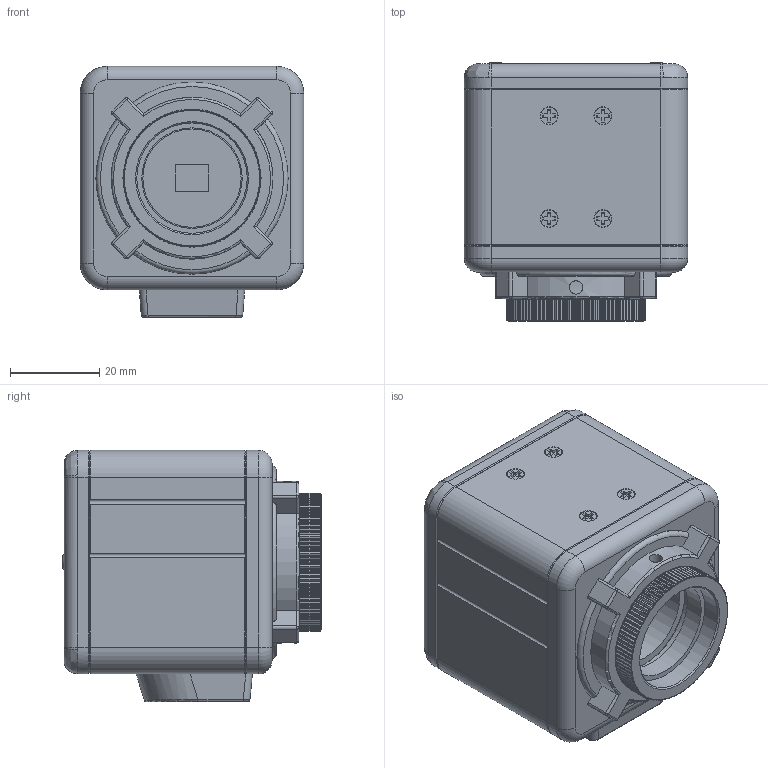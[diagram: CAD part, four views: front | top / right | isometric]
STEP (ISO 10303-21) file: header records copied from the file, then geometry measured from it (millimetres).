
FILE_DESCRIPTION(('STEP AP214'),'1');
FILE_NAME('WA2UVC.stp','2023-06-20T04:46:05',(' '),(' '),'Spatial InterOp 3D',' ',' ');
FILE_SCHEMA(('AUTOMOTIVE_DESIGN { 1 0 10303 214 1 1 1 1 }'));
Length unit declared in the file: metre
Products named in the file (2): WA2UVC; Component1
Assembly tree (1 placements, depth 2):
  WA2UVC
    Component1
Bounding box: 50 x 57.8 x 56.2 mm (x, y, z)
Volume: 59591.8 mm3; surface area: 35390.6 mm2
Topology: 1 solids, 7 shells, 1157 faces, 2857 edges, 1849 vertices
Faces by surface type: plane 892, cylinder 175, cone 46, torus 20, bspline 16, sphere 8
Full cylindrical faces by diameter (mm): 2 x2, 2.4 x14, 2.8 x8, 3 x2, 3.5 x2, 4.25 x2, 4.5 x2, 6 x1, 22 x1, 22.5 x1, 24 x1, 24.7 x3, 30 x3, 30.5 x1
Entity records: 65772 total; most frequent: CARTESIAN_POINT 15507, DIRECTION 5515, ORIENTED_EDGE 5494, STYLED_ITEM 3905, PRESENTATION_STYLE_ASSIGNMENT 3905, COLOUR_RGB 3905, EDGE_CURVE 2747, CURVE_STYLE 2747
